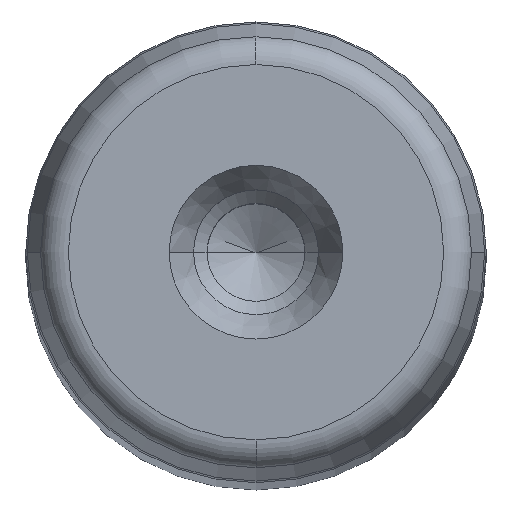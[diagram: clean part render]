
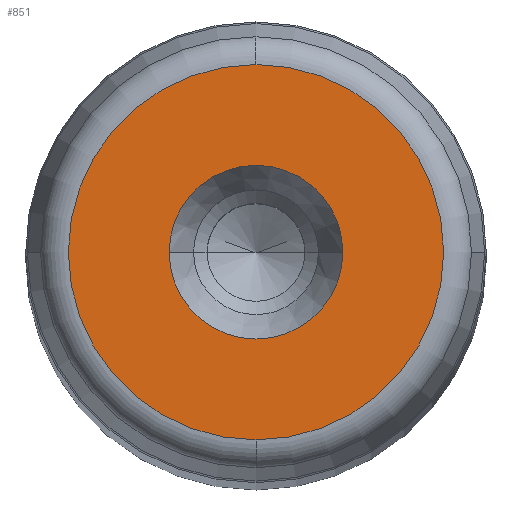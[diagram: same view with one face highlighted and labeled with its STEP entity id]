
A CAD part, top view. The second image highlights one B-rep face of the part: STEP entity #851.
In plain terms, the highlighted planar face has unit normal (0, 0, 1) as drawn and (0, 1, 0) by its records, which use the part's own axes.
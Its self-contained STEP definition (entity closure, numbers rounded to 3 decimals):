
#281=CARTESIAN_POINT('',(9.05,450.0,0.0));
#282=VERTEX_POINT('',#281);
#289=CARTESIAN_POINT('',(-9.05,450.0,0.));
#290=VERTEX_POINT('',#289);
#291=CARTESIAN_POINT('',(0.0,450.0,0.0));
#292=DIRECTION('',(0.0,1.0,0.0));
#293=DIRECTION('',(1.0,0.0,0.0));
#294=AXIS2_PLACEMENT_3D('',#291,#292,#293);
#295=CIRCLE('',#294,9.05);
#296=EDGE_CURVE('',#282,#290,#295,.T.);
#313=CARTESIAN_POINT('',(0.0,450.0,19.554));
#314=VERTEX_POINT('',#313);
#324=CARTESIAN_POINT('',(0.,450.0,-19.554));
#325=VERTEX_POINT('',#324);
#326=CARTESIAN_POINT('',(0.0,450.0,0.0));
#327=DIRECTION('',(0.0,1.0,0.0));
#328=DIRECTION('',(1.0,0.0,0.0));
#329=AXIS2_PLACEMENT_3D('',#326,#327,#328);
#330=CIRCLE('',#329,19.554);
#331=EDGE_CURVE('',#325,#314,#330,.T.);
#812=CARTESIAN_POINT('',(19.554,450.0,0.0));
#813=VERTEX_POINT('',#812);
#814=CARTESIAN_POINT('',(0.0,450.0,0.0));
#815=DIRECTION('',(0.0,1.0,0.0));
#816=DIRECTION('',(1.0,0.0,0.0));
#817=AXIS2_PLACEMENT_3D('',#814,#815,#816);
#818=CIRCLE('',#817,19.554);
#819=EDGE_CURVE('',#813,#325,#818,.T.);
#821=CARTESIAN_POINT('',(0.0,450.0,0.0));
#822=DIRECTION('',(0.0,1.0,0.0));
#823=DIRECTION('',(1.0,0.0,0.0));
#824=AXIS2_PLACEMENT_3D('',#821,#822,#823);
#825=CIRCLE('',#824,19.554);
#826=EDGE_CURVE('',#314,#813,#825,.T.);
#831=CARTESIAN_POINT('',(-21.51,450.0,-21.51));
#832=DIRECTION('',(0.0,1.0,0.0));
#833=DIRECTION('',(0.0,0.0,1.0));
#834=AXIS2_PLACEMENT_3D('',#831,#832,#833);
#835=PLANE('',#834);
#836=ORIENTED_EDGE('',*,*,#819,.T.);
#837=ORIENTED_EDGE('',*,*,#331,.T.);
#838=ORIENTED_EDGE('',*,*,#826,.T.);
#839=EDGE_LOOP('',(#836,#837,#838));
#840=FACE_OUTER_BOUND('',#839,.T.);
#841=ORIENTED_EDGE('',*,*,#296,.F.);
#842=CARTESIAN_POINT('',(0.0,450.0,0.0));
#843=DIRECTION('',(0.0,1.0,0.0));
#844=DIRECTION('',(1.0,0.0,0.0));
#845=AXIS2_PLACEMENT_3D('',#842,#843,#844);
#846=CIRCLE('',#845,9.05);
#847=EDGE_CURVE('',#290,#282,#846,.T.);
#848=ORIENTED_EDGE('',*,*,#847,.F.);
#849=EDGE_LOOP('',(#841,#848));
#850=FACE_BOUND('',#849,.T.);
#851=ADVANCED_FACE('',(#840,#850),#835,.T.);
